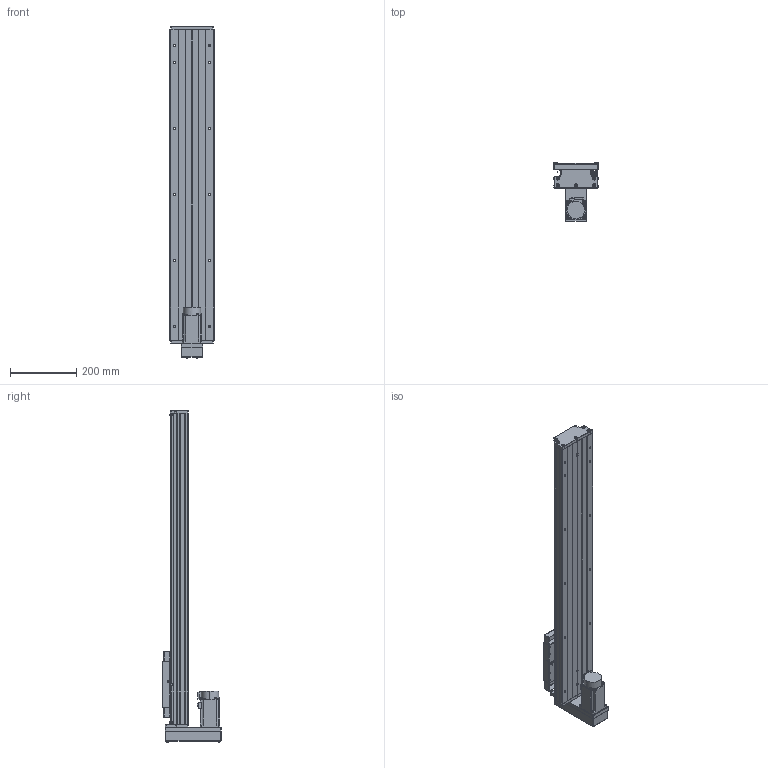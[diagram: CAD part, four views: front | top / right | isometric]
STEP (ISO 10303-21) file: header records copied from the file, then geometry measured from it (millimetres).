
FILE_DESCRIPTION (( 'STEP AP203' ), '1' );
FILE_NAME ('GTH14-700-BM-M40-C4.step', '2023-06-30T08:47:08', ( '微软用户' ), ( '微软中国' ), 'SwSTEP 2.0', 'SolidWorks 2020', '' );
FILE_SCHEMA (( 'CONFIG_CONTROL_DESIGN' ));
Length unit declared in the file: millimetre
Products named in the file (19): GTH14-004; GBT 70.1-M3℅5; GTH14-015-2_CTHA86-015-2; GTH14-005; GBT77-2000 M3×3; GTH14-033; GB1155-6X6; GTH14-031; GTH14-700-BM-M40-C4; GBT70.1 M5℅16; GBT 70.2-M3¡Á5_M3¡Á6; CTHA60-017; す晦芛蹟隊 M3℅5; GTH14-001_700; EE_SX911P_R; HG-KN43J-S100; GTH14-002_GTH14-002; CTHA60-016; GBT 70.2-M4¡Á35_M4¡Á35
Assembly tree (58 placements, depth 2):
  GTH14-700-BM-M40-C4
    GTH14-001_700
    GTH14-002_GTH14-002
    GTH14-004
    GTH14-005
    GB1155-6X6  x2
    GBT70.1 M5℅16  x10
    CTHA60-017  x3
    EE_SX911P_R  x3
    CTHA60-016  x2
    GBT 70.1-M3℅5  x6
    GBT77-2000 M3×3  x6
    GTH14-031
    GBT 70.2-M3¡Á5_M3¡Á6  x8
    す晦芛蹟隊 M3℅5  x6
    HG-KN43J-S100
    GBT 70.2-M4¡Á35_M4¡Á35  x4
    GTH14-015-2_CTHA86-015-2
    GTH14-033
Bounding box: 135 x 177.5 x 1004.2 mm (x, y, z)
Volume: 5523737.3 mm3; surface area: 924319.8 mm2
Topology: 61 solids, 61 shells, 2463 faces, 5857 edges, 3610 vertices
Faces by surface type: plane 1309, cylinder 664, cone 314, torus 124, sphere 32, bspline 20
Entity records: 44466 total; most frequent: CARTESIAN_POINT 9907, DIRECTION 6549, ORIENTED_EDGE 6404, EDGE_CURVE 3202, AXIS2_PLACEMENT_3D 2244, VECTOR 2061, LINE 2061, VERTEX_POINT 2028
